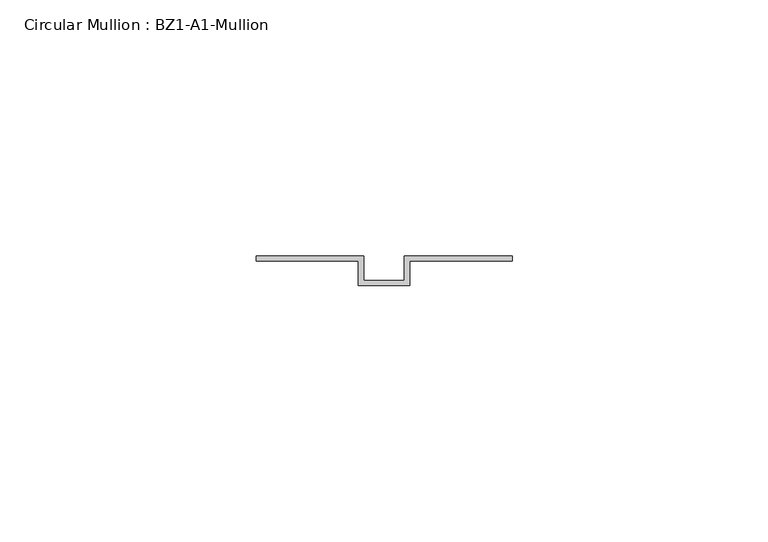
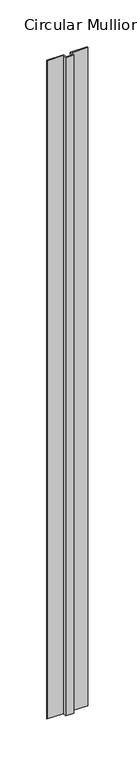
"""IFC4 building model written with IfcOpenShell, lengths in millimetres: member geometry, Circular Mullion : BZ1-A1-Mullion."""

from ifc_helpers import new_model, si_unit, frame, origin, place, context, project, spatial, polyline, outline, extrude, source, transform, mapped, element, save


def circular_mullion_bz1_a1_mullion_cdbcedf2(model_context):
    return source(origin(), model_context, "Body", "SweptSolid", [
        extrude(outline(polyline([(-25.0, 11.0), (-4.0, 11.0), (-4.0, 6.2), (4.0, 6.2), (4.0, 11.0), (25.0, 11.0), (25.0, 10.0), (5.0, 10.0), (5.0, 5.2), (-5.0, 5.2), (-5.0, 10.0), (-25.0, 10.0), (-25.0, 11.0)])), frame((0.0, 0.0, -858.8888888), z_axis=(0.0, 0.0, 1.0), x_axis=(1.0, 0.0, 0.0)), (0.0, 0.0, 1.0), 858.8888888),
    ])


if __name__ == "__main__":
    model = new_model("IFC4")
    model_context = context("Model", 3, world=origin())
    ifc_project = project(units=[si_unit("LENGTHUNIT", "METRE", prefix="MILLI")], contexts=[model_context])
    site = spatial("IfcSite", under=ifc_project)
    building = spatial("IfcBuilding", under=site)
    placement = place(None, origin())
    circular_mullion_bz1_a1_mullion_shape = circular_mullion_bz1_a1_mullion_cdbcedf2(model_context)
    element("IfcMember", 1, ObjectType="Circular Mullion : BZ1-A1-Mullion", at=placement, inside=building, context=model_context, shape_type="MappedRepresentation", body=[
        mapped(circular_mullion_bz1_a1_mullion_shape, transform((0.0, 0.0, 0.0), x_axis=(1.0, 0.0, 0.0), y_axis=(0.0, 1.0, 0.0), z_axis=(0.0, 0.0, 1.0))),
    ])
    save(model, "model.ifc")
